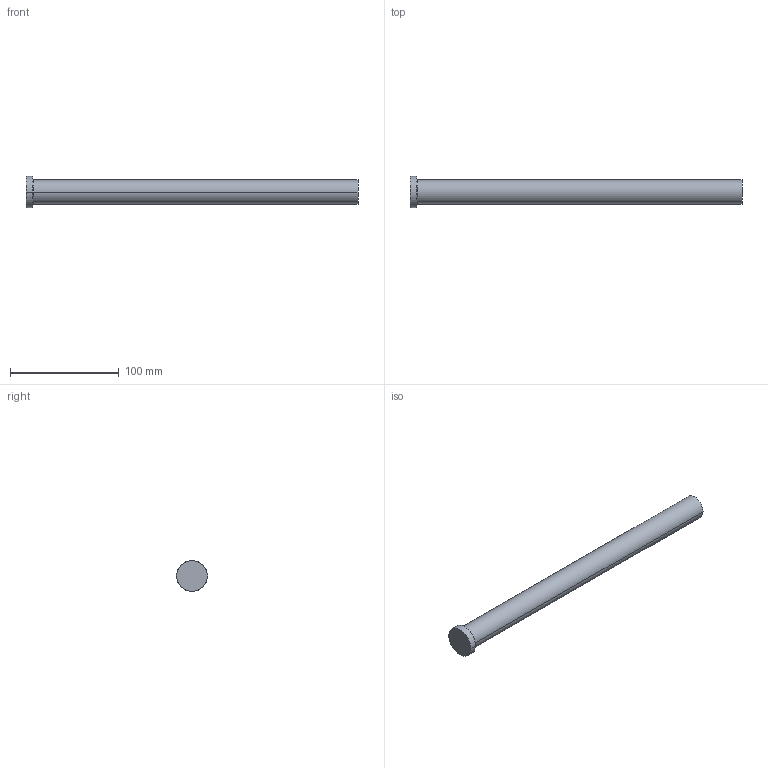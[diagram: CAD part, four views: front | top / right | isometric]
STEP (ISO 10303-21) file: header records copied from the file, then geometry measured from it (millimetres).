
FILE_DESCRIPTION (( 'STEP AP214' ), '1' );
FILE_NAME ('P45-12.STEP', '2020-03-12T12:22:43', ( '' ), ( '' ), 'SwSTEP 2.0', 'SolidWorks 2018', '' );
FILE_SCHEMA (( 'AUTOMOTIVE_DESIGN' ));
Length unit declared in the file: inch
Products named in the file (1): P45-12
Bounding box: 304.8 x 28.57 x 28.57 mm (x, y, z)
Volume: 119730.9 mm3; surface area: 22645.8 mm2
Topology: 1 solids, 1 shells, 13 faces, 24 edges, 14 vertices
Faces by surface type: cone 4, cylinder 4, plane 3, torus 2
Entity records: 366 total; most frequent: DIRECTION 68, CARTESIAN_POINT 52, ORIENTED_EDGE 48, AXIS2_PLACEMENT_3D 30, EDGE_CURVE 24, CIRCLE 16, VERTEX_POINT 14, EDGE_LOOP 14
